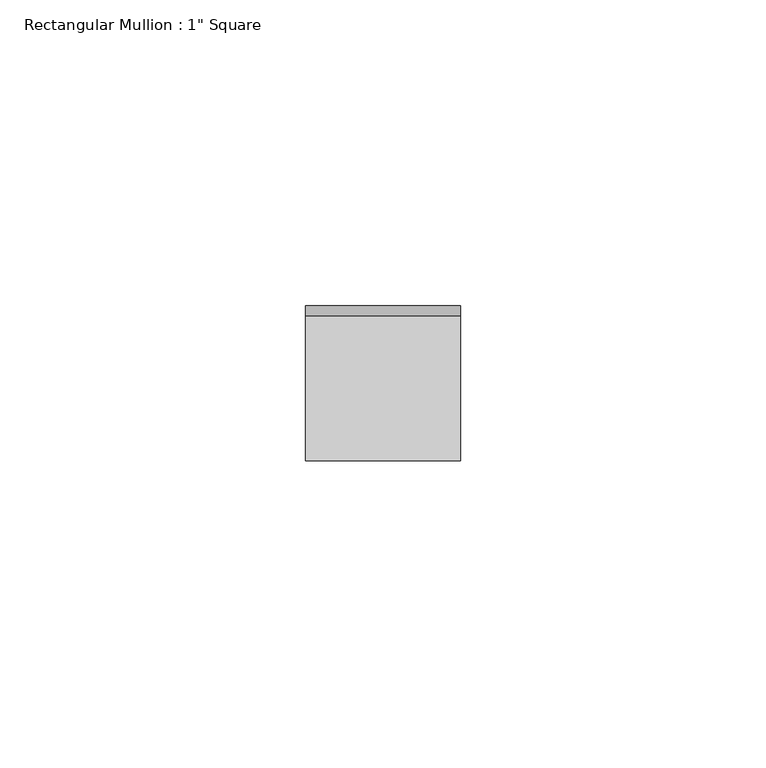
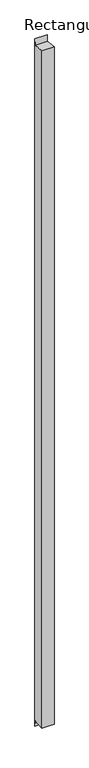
"""IFC4 building model written with IfcOpenShell, lengths in millimetres: member geometry."""

from ifc_helpers import new_model, si_unit, origin, place, context, project, spatial, faceted_brep, source, transform, mapped, element, save


def member_dfe62b7a(model_context):
    return source(origin(), model_context, "Body", "Brep", [
        faceted_brep([(-12.7, 12.7, 11.903125), (12.7, 12.7, 11.903125), (12.7, 12.7, -1510.503125), (0.0, 12.7, -1510.503125), (-12.7, 12.7, -1510.503125), (-12.7, -12.7, 1.4996528), (-12.7, 11.0128906, -1.4878906), (-12.7, 11.0128906, -1497.1121094), (-12.7, -12.7, -1500.0996528), (12.7, -12.7, 1.4996528), (0.0, -12.7, -1500.0996528), (12.7, -12.7, -1500.0996528), (12.7, 11.0128906, -1.4878906), (12.7, 11.0128906, -1497.1121094), (0.0, 11.0128906, -1497.1121094)], [[[0, 1, 2, 3, 4]], [[5, 6, 0, 4, 7, 8]], [[9, 5, 8, 10, 11]], [[1, 12, 9, 11, 13, 2]], [[1, 0, 6, 12]], [[6, 5, 9, 12]], [[2, 13, 14, 3]], [[13, 11, 10, 14]], [[10, 8, 7, 14]], [[7, 4, 3, 14]]]),
    ])


if __name__ == "__main__":
    model = new_model("IFC4")
    model_context = context("Model", 3, world=origin())
    ifc_project = project(units=[si_unit("LENGTHUNIT", "METRE", prefix="MILLI")], contexts=[model_context])
    site = spatial("IfcSite", under=ifc_project)
    building = spatial("IfcBuilding", under=site)
    placement = place(None, origin())
    member_shape = member_dfe62b7a(model_context)
    element("IfcMember", 1, ObjectType="Rectangular Mullion : 1\" Square", at=placement, inside=building, context=model_context, shape_type="MappedRepresentation", body=[
        mapped(member_shape, transform((0.0, 0.0, 0.0), x_axis=(1.0, 0.0, 0.0), y_axis=(0.0, 1.0, 0.0), z_axis=(0.0, 0.0, 1.0))),
    ])
    save(model, "model.ifc")
